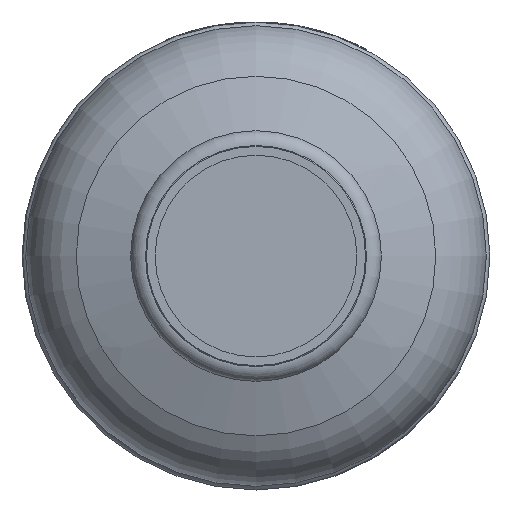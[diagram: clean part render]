
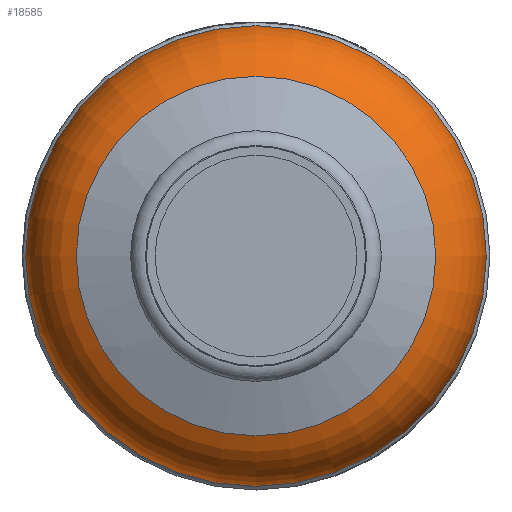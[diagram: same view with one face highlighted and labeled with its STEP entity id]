
A CAD part, front view. The second image highlights one B-rep face of the part: STEP entity #18585.
In plain terms, the highlighted toroidal (fillet/blend) face has major radius 40 mm and minor radius 22 mm.
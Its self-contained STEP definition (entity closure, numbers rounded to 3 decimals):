
#4893=FACE_BOUND('',#7028,.T.);
#5912=FACE_OUTER_BOUND('',#7027,.T.);
#7027=EDGE_LOOP('',(#17553));
#7028=EDGE_LOOP('',(#17554));
#7385=CIRCLE('',#19965,48.381);
#7386=CIRCLE('',#19966,62.);
#9241=VERTEX_POINT('',#39611);
#9242=VERTEX_POINT('',#39613);
#12015=EDGE_CURVE('',#9241,#9241,#7385,.T.);
#12016=EDGE_CURVE('',#9242,#9242,#7386,.T.);
#17553=ORIENTED_EDGE('',*,*,#12015,.F.);
#17554=ORIENTED_EDGE('',*,*,#12016,.T.);
#17569=TOROIDAL_SURFACE('',#19964,40.,22.);
#18585=ADVANCED_FACE('',(#5912,#4893),#17569,.T.);
#19964=AXIS2_PLACEMENT_3D('',#39610,#24059,#24060);
#19965=AXIS2_PLACEMENT_3D('',#39612,#24061,#24062);
#19966=AXIS2_PLACEMENT_3D('',#39614,#24063,#24064);
#24059=DIRECTION('center_axis',(0.,-1.,0.));
#24060=DIRECTION('ref_axis',(0.,0.,1.));
#24061=DIRECTION('center_axis',(0.,-1.,0.));
#24062=DIRECTION('ref_axis',(1.,0.,0.));
#24063=DIRECTION('center_axis',(0.,-1.,0.));
#24064=DIRECTION('ref_axis',(1.,0.,0.));
#39610=CARTESIAN_POINT('Origin',(0.,-152.082,
0.));
#39611=CARTESIAN_POINT('',(48.381,-172.424,0.));
#39612=CARTESIAN_POINT('Origin',(0.,-172.424,
0.));
#39613=CARTESIAN_POINT('',(62.,-152.082,0.));
#39614=CARTESIAN_POINT('Origin',(0.,-152.082,
0.));
